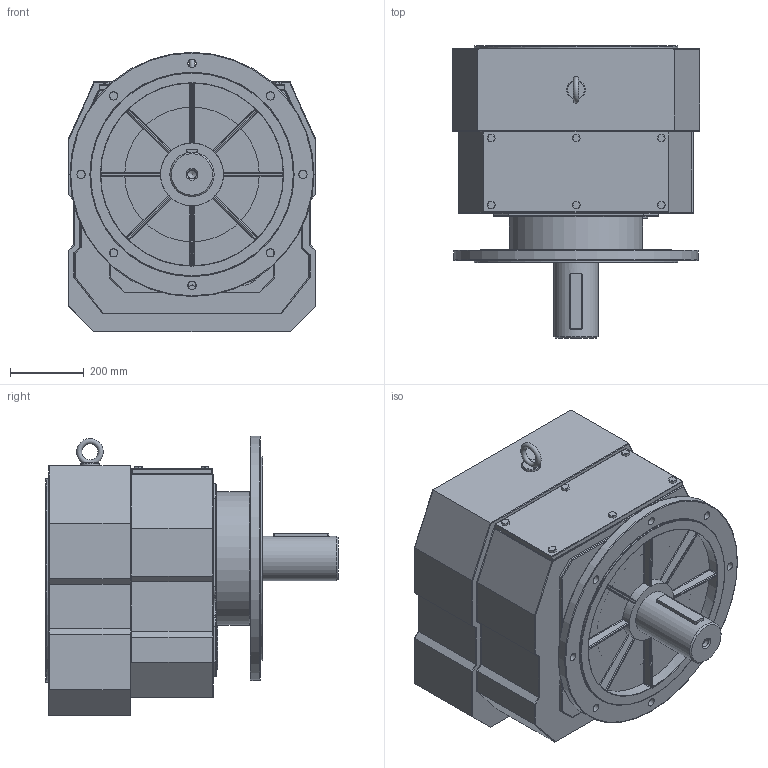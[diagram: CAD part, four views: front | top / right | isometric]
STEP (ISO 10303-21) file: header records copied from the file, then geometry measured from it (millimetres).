
FILE_DESCRIPTION((''),'2;1');
FILE_NAME('D:\PAWEŁ\ZLECENIA\2011 DualSystem\Przekładnie DR\DR160\STEP\DRF160_fi 660.stp','2012-06-11T12:59:18',('admin'),(''),'Autodesk Inventor 2009','Autodesk Inventor 2009','');
FILE_SCHEMA(('AUTOMOTIVE_DESIGN { 1 0 10303 214 1 1 1 1 }'));
Length unit declared in the file: millimetre
Products named in the file (1): DRF160_fi 660
Bounding box: 670 x 790 x 755 mm (x, y, z)
Volume: 198357768.7 mm3; surface area: 3070090.3 mm2
Topology: 2 solids, 2 shells, 508 faces, 1222 edges, 694 vertices
Faces by surface type: cylinder 231, plane 165, bspline 47, sphere 44, torus 19, cone 2
Full cylindrical faces by diameter (mm): 50 x1, 80 x1, 110 x1, 120 x2, 170 x1, 360 x1, 410 x1, 494 x1, 550 x2, 660 x1
Entity records: 18151 total; most frequent: CARTESIAN_POINT 6464, DIRECTION 2502, ORIENTED_EDGE 2272, EDGE_CURVE 1136, AXIS2_PLACEMENT_3D 947, VERTEX_POINT 681, VECTOR 608, LINE 608
